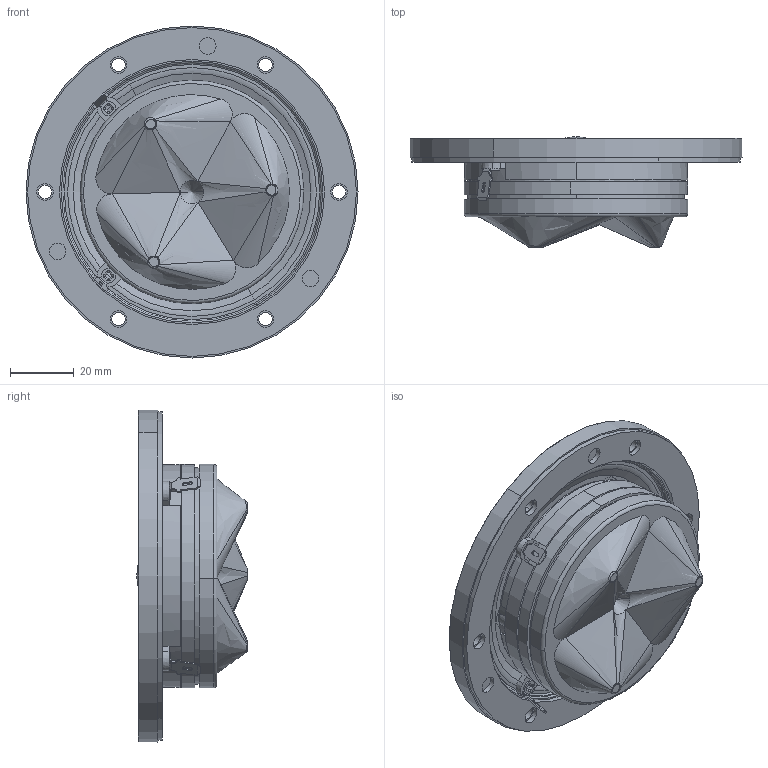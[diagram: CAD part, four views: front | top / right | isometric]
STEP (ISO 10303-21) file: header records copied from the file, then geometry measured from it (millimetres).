
FILE_DESCRIPTION (( 'STEP AP214' ), '1' );
FILE_NAME ('D2904-710002.STEP', '2020-11-24T09:59:34', ( '' ), ( '' ), 'SwSTEP 2.0', 'SolidWorks 2019', '' );
FILE_SCHEMA (( 'AUTOMOTIVE_DESIGN' ));
Length unit declared in the file: millimetre
Products named in the file (1): D2904-710002
Bounding box: 104 x 34.65 x 104 mm (x, y, z)
Volume: 113936.5 mm3; surface area: 35098 mm2
Topology: 1 solids, 12 shells, 520 faces, 1294 edges, 828 vertices
Faces by surface type: cylinder 197, plane 162, torus 57, bspline 54, cone 40, sphere 10
Entity records: 24042 total; most frequent: CARTESIAN_POINT 6551, ORIENTED_EDGE 2580, DIRECTION 2398, EDGE_CURVE 1290, AXIS2_PLACEMENT_3D 952, VERTEX_POINT 828, EDGE_LOOP 582, FACE_OUTER_BOUND 520
